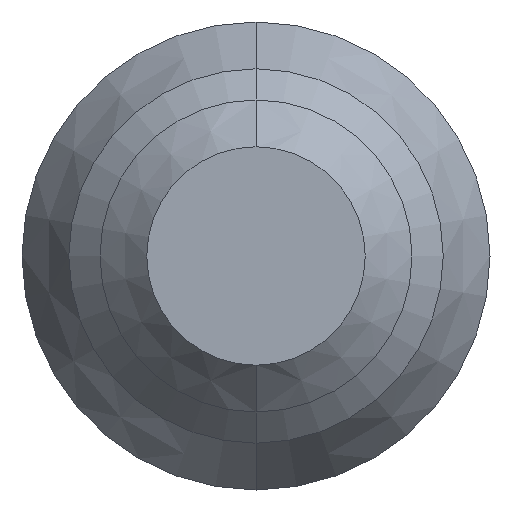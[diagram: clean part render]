
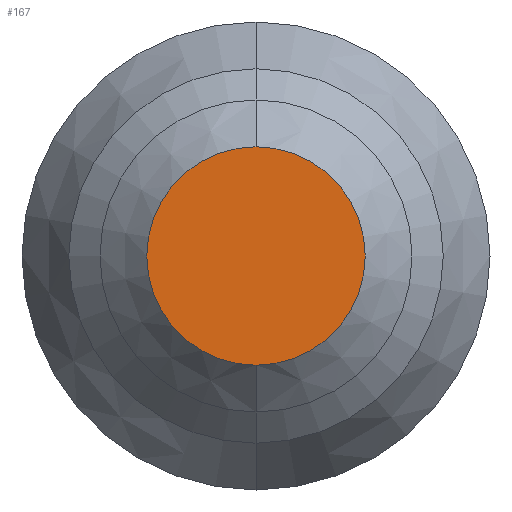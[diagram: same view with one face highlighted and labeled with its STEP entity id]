
A CAD part, front view. The second image highlights one B-rep face of the part: STEP entity #167.
In plain terms, the highlighted planar face has unit normal (0, -1, 0).
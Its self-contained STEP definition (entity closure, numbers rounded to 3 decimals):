
#3 = DIRECTION ( 'NONE',  ( 0., 0., -1. ) ) ;
#23 = EDGE_CURVE ( 'NONE', #488, #576, #545, .T. ) ;
#52 = CARTESIAN_POINT ( 'NONE',  ( 0., 0., 0. ) ) ;
#66 = DIRECTION ( 'NONE',  ( 0., 0., -1. ) ) ;
#89 = CARTESIAN_POINT ( 'NONE',  ( 0., 0., -0.7 ) ) ;
#130 = CARTESIAN_POINT ( 'NONE',  ( 0., 0., 0. ) ) ;
#167 = ADVANCED_FACE ( 'NONE', ( #248 ), #357, .T. ) ;
#194 = DIRECTION ( 'NONE',  ( 0., -1., 0. ) ) ;
#232 = DIRECTION ( 'NONE',  ( 0., -1., 0. ) ) ;
#248 = FACE_OUTER_BOUND ( 'NONE', #733, .T. ) ;
#357 = PLANE ( 'NONE',  #544 ) ;
#362 = CIRCLE ( 'NONE', #403, 0.7 ) ;
#403 = AXIS2_PLACEMENT_3D ( 'NONE', #130, #478, #3 ) ;
#424 = ORIENTED_EDGE ( 'NONE', *, *, #23, .T. ) ;
#456 = DIRECTION ( 'NONE',  ( 0., 0., -1. ) ) ;
#478 = DIRECTION ( 'NONE',  ( 0., -1., 0. ) ) ;
#488 = VERTEX_POINT ( 'NONE', #598 ) ;
#498 = ORIENTED_EDGE ( 'NONE', *, *, #499, .T. ) ;
#499 = EDGE_CURVE ( 'NONE', #576, #488, #362, .T. ) ;
#544 = AXIS2_PLACEMENT_3D ( 'NONE', #706, #194, #66 ) ;
#545 = CIRCLE ( 'NONE', #700, 0.7 ) ;
#576 = VERTEX_POINT ( 'NONE', #89 ) ;
#598 = CARTESIAN_POINT ( 'NONE',  ( 0., 0., 0.7 ) ) ;
#700 = AXIS2_PLACEMENT_3D ( 'NONE', #52, #232, #456 ) ;
#706 = CARTESIAN_POINT ( 'NONE',  ( -1., 0., 0. ) ) ;
#733 = EDGE_LOOP ( 'NONE', ( #424, #498 ) ) ;
